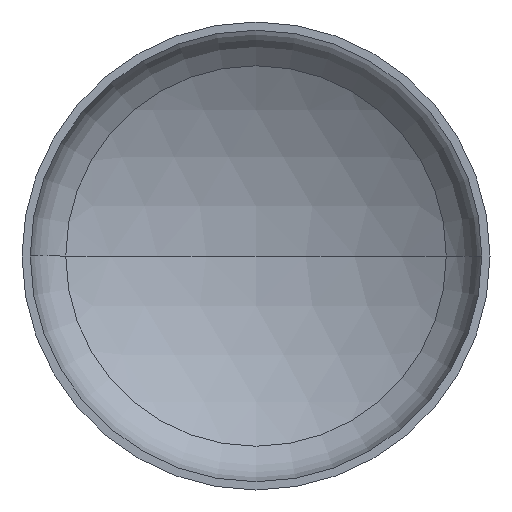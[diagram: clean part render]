
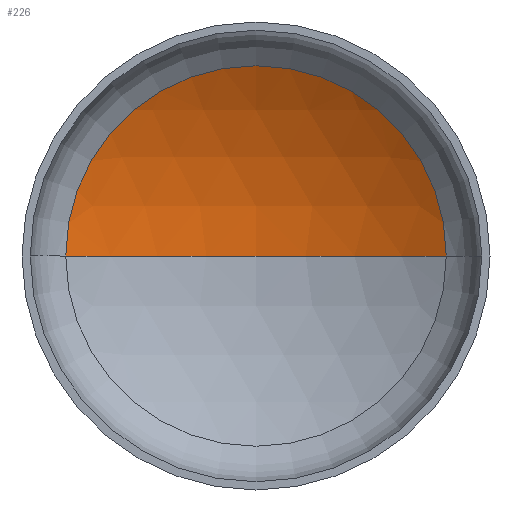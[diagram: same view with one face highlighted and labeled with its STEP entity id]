
A CAD part, front view. The second image highlights one B-rep face of the part: STEP entity #226.
In plain terms, the highlighted spherical face has radius 4800 mm.
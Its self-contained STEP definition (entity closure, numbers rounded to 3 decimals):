
#5 = DIRECTION ( 'NONE',  ( -1., 0., 0. ) ) ;
#29 = DIRECTION ( 'NONE',  ( 0., 0., -1. ) ) ;
#34 = AXIS2_PLACEMENT_3D ( 'NONE', #35, #29, #179 ) ;
#35 = CARTESIAN_POINT ( 'NONE',  ( 0., -3262.464, 0. ) ) ;
#47 = CIRCLE ( 'NONE', #62, 4800. ) ;
#61 = AXIS2_PLACEMENT_3D ( 'NONE', #258, #206, #349 ) ;
#62 = AXIS2_PLACEMENT_3D ( 'NONE', #372, #391, #5 ) ;
#69 = AXIS2_PLACEMENT_3D ( 'NONE', #189, #71, #309 ) ;
#71 = DIRECTION ( 'NONE',  ( 0., -1., 0. ) ) ;
#112 = ORIENTED_EDGE ( 'NONE', *, *, #150, .T. ) ;
#115 = VERTEX_POINT ( 'NONE', #217 ) ;
#127 = ORIENTED_EDGE ( 'NONE', *, *, #155, .T. ) ;
#141 = EDGE_LOOP ( 'NONE', ( #174, #127, #112 ) ) ;
#150 = EDGE_CURVE ( 'NONE', #175, #115, #317, .T. ) ;
#155 = EDGE_CURVE ( 'NONE', #400, #175, #47, .T. ) ;
#157 = EDGE_CURVE ( 'NONE', #400, #115, #255, .T. ) ;
#174 = ORIENTED_EDGE ( 'NONE', *, *, #157, .F. ) ;
#175 = VERTEX_POINT ( 'NONE', #245 ) ;
#179 = DIRECTION ( 'NONE',  ( -1., 0., 0. ) ) ;
#189 = CARTESIAN_POINT ( 'NONE',  ( 0., 871.685, 0. ) ) ;
#206 = DIRECTION ( 'NONE',  ( 0., 0., 1. ) ) ;
#217 = CARTESIAN_POINT ( 'NONE',  ( -2439.019, 871.685, 0. ) ) ;
#226 = ADVANCED_FACE ( 'NONE', ( #240 ), #307, .F. ) ;
#240 = FACE_OUTER_BOUND ( 'NONE', #141, .T. ) ;
#245 = CARTESIAN_POINT ( 'NONE',  ( 2439.019, 871.685, 0. ) ) ;
#255 = CIRCLE ( 'NONE', #61, 4800. ) ;
#258 = CARTESIAN_POINT ( 'NONE',  ( 0., -3262.464, 0. ) ) ;
#307 = SPHERICAL_SURFACE ( 'NONE', #34, 4800. ) ;
#309 = DIRECTION ( 'NONE',  ( 1., 0., 0. ) ) ;
#317 = CIRCLE ( 'NONE', #69, 2439.019 ) ;
#349 = DIRECTION ( 'NONE',  ( 1., 0., 0. ) ) ;
#355 = CARTESIAN_POINT ( 'NONE',  ( 0., 1537.536, 0. ) ) ;
#372 = CARTESIAN_POINT ( 'NONE',  ( 0., -3262.464, 0. ) ) ;
#391 = DIRECTION ( 'NONE',  ( 0., 0., -1. ) ) ;
#400 = VERTEX_POINT ( 'NONE', #355 ) ;
